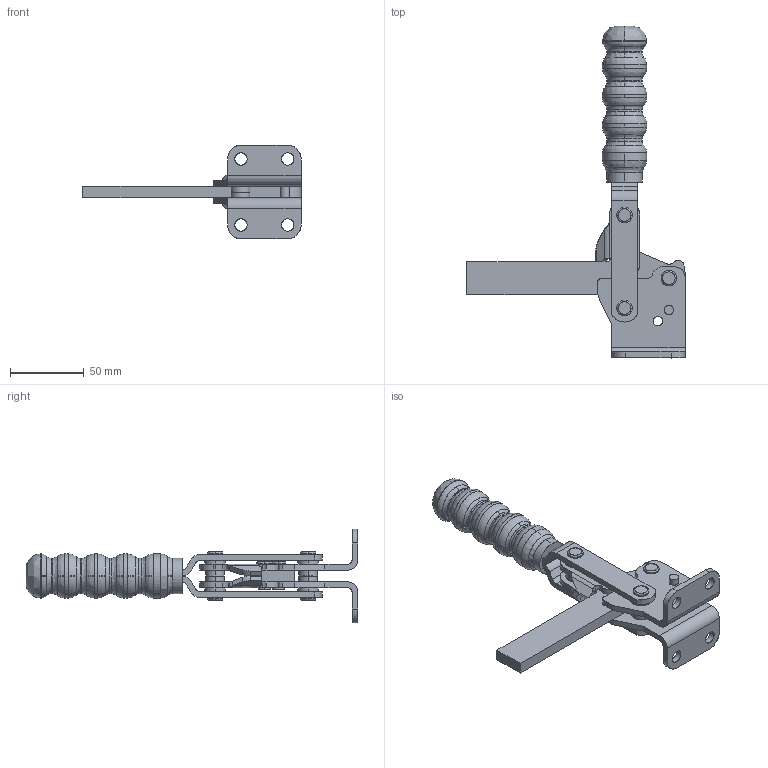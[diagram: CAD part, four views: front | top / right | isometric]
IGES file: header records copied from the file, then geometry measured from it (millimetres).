
Start section: SolidWorks IGES file using analytic representation for surfaces
Global section: file name: X:\Solidworks\Download\V350-2A\IGES\V350-2A.IGS; native system: SolidWorks 2016; preprocessor: SolidWorks 2016; author: AndyW; date: 170516.141953; units: millimetre
Bounding box: 148.32 x 225.45 x 63.84 mm (x, y, z)
Surface area: 75169.6 mm2 (no closed solid volume)
Topology: 0 solids, 0 shells, 349 faces, 5712 edges, 5712 vertices
Faces by surface type: revolution 184, bspline 165
